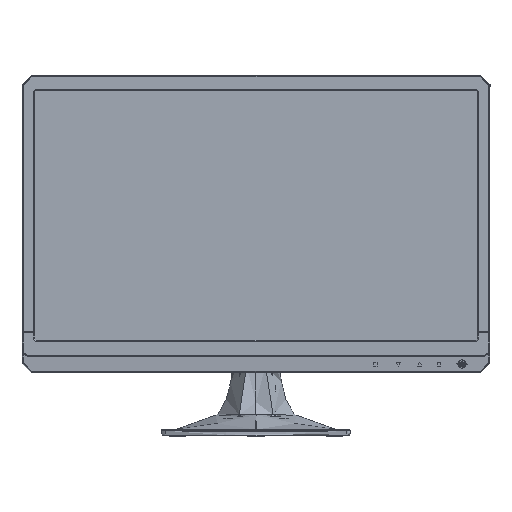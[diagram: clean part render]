
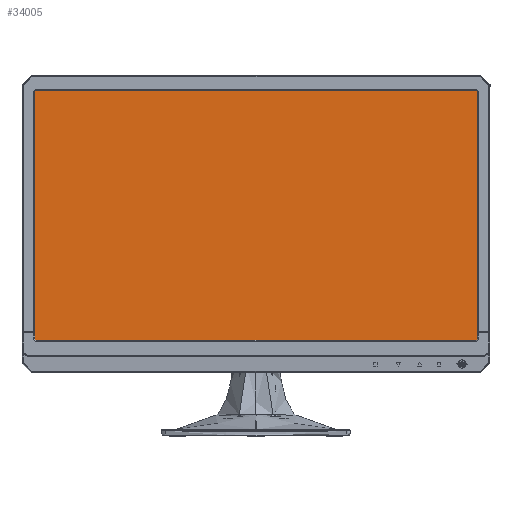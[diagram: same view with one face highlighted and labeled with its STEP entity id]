
A CAD part, top view. The second image highlights one B-rep face of the part: STEP entity #34005.
In plain terms, the highlighted planar face has unit normal (0, 0, 1) as drawn and (0, 1, 0) by its records, which use the part's own axes.
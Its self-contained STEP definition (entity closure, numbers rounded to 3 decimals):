
#6623 = CARTESIAN_POINT ( 'NONE',  ( -240.92, -1.14, 137.1 ) ) ;
#12374 = EDGE_LOOP ( 'NONE', ( #16375, #47817, #83627, #469075 ) ) ;
#16375 = ORIENTED_EDGE ( 'NONE', *, *, #17317, .T. ) ;
#17317 = EDGE_CURVE ( 'NONE', #143790, #395077, #55397, .T. ) ;
#34005 = ADVANCED_FACE ( 'NONE', ( #382563 ), #407896, .T. ) ;
#47817 = ORIENTED_EDGE ( 'NONE', *, *, #213236, .T. ) ;
#55397 = LINE ( 'NONE', #223504, #347687 ) ;
#62857 = CARTESIAN_POINT ( 'NONE',  ( -240.92, -1.14, 0. ) ) ;
#77773 = AXIS2_PLACEMENT_3D ( 'NONE', #292918, #179531, #446256 ) ;
#83627 = ORIENTED_EDGE ( 'NONE', *, *, #274001, .T. ) ;
#106069 = DIRECTION ( 'NONE',  ( 0., 0., 1. ) ) ;
#112295 = DIRECTION ( 'NONE',  ( 0., 0., -1. ) ) ;
#124185 = DIRECTION ( 'NONE',  ( 1., 0., 0. ) ) ;
#143790 = VERTEX_POINT ( 'NONE', #246356 ) ;
#179531 = DIRECTION ( 'NONE',  ( 0., 1., 0. ) ) ;
#206481 = EDGE_CURVE ( 'NONE', #338510, #143790, #454290, .T. ) ;
#213236 = EDGE_CURVE ( 'NONE', #395077, #253743, #283665, .T. ) ;
#221752 = VECTOR ( 'NONE', #124185, 1000. ) ;
#223504 = CARTESIAN_POINT ( 'NONE',  ( 0., -1.14, -139. ) ) ;
#246356 = CARTESIAN_POINT ( 'NONE',  ( 240.92, -1.14, -139. ) ) ;
#251443 = VECTOR ( 'NONE', #112295, 1000. ) ;
#253743 = VERTEX_POINT ( 'NONE', #6623 ) ;
#261859 = DIRECTION ( 'NONE',  ( -1., 0., 0. ) ) ;
#263559 = CARTESIAN_POINT ( 'NONE',  ( -240.92, -1.14, -139. ) ) ;
#274001 = EDGE_CURVE ( 'NONE', #253743, #338510, #436439, .T. ) ;
#283665 = LINE ( 'NONE', #62857, #450608 ) ;
#292918 = CARTESIAN_POINT ( 'NONE',  ( 0., -1.14, 0. ) ) ;
#304059 = CARTESIAN_POINT ( 'NONE',  ( 240.92, -1.14, 0. ) ) ;
#338510 = VERTEX_POINT ( 'NONE', #428012 ) ;
#347687 = VECTOR ( 'NONE', #261859, 1000. ) ;
#349304 = CARTESIAN_POINT ( 'NONE',  ( 0., -1.14, 137.1 ) ) ;
#382563 = FACE_OUTER_BOUND ( 'NONE', #12374, .T. ) ;
#395077 = VERTEX_POINT ( 'NONE', #263559 ) ;
#407896 = PLANE ( 'NONE',  #77773 ) ;
#428012 = CARTESIAN_POINT ( 'NONE',  ( 240.92, -1.14, 137.1 ) ) ;
#436439 = LINE ( 'NONE', #349304, #221752 ) ;
#446256 = DIRECTION ( 'NONE',  ( 0., 0., 1. ) ) ;
#450608 = VECTOR ( 'NONE', #106069, 1000. ) ;
#454290 = LINE ( 'NONE', #304059, #251443 ) ;
#469075 = ORIENTED_EDGE ( 'NONE', *, *, #206481, .T. ) ;
